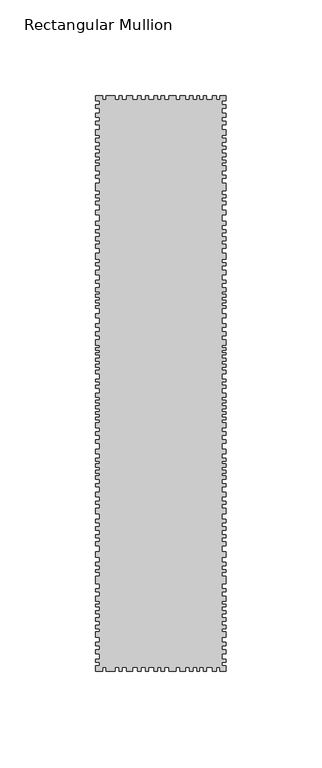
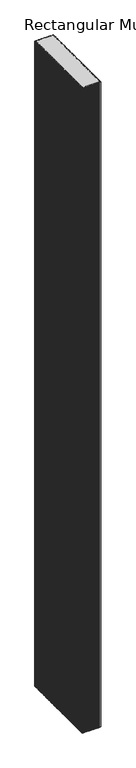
"""IFC4 building model written with IfcOpenShell, lengths in millimetres: member geometry, Rectangular Mullion : DucoSun Cubic Design louvre 300."""

from ifc_helpers import new_model, si_unit, frame, origin, place, context, project, spatial, polyline, outline, extrude, source, transform, mapped, element, save


def rectangular_mullion_1fec48aa(model_context):
    return source(origin(), model_context, "Body", "SweptSolid", [
        extrude(outline(polyline([(-68.0, 297.3782451), (-68.0, 300.0), (-64.4544414, 300.0), (-64.4544414, 298.0), (-62.627942, 298.0), (-62.627942, 300.0), (-57.9842994, 300.0), (-57.9842994, 298.0), (-55.8172663, 298.0), (-55.8172663, 300.0), (-54.3003431, 300.0), (-54.3003431, 298.0), (-51.9475642, 298.0), (-51.9475642, 300.0), (-48.8827601, 300.0), (-48.8827601, 298.0), (-46.0965746, 298.0), (-46.0965746, 300.0), (-44.3939057, 300.0), (-44.3939057, 298.0), (-42.0101692, 298.0), (-42.0101692, 300.0), (-40.5242036, 300.0), (-40.5242036, 298.0), (-37.4884678, 298.0), (-37.4884678, 300.0), (-35.7094289, 300.0), (-35.7094289, 298.0), (-34.0, 298.0), (-34.0, 300.0), (-32.1513512, 300.0), (-32.1513512, 298.0), (-29.7871022, 298.0), (-29.7871022, 300.0), (-26.0183489, 300.0), (-26.0183489, 298.0), (-23.9584092, 298.0), (-23.9584092, 300.0), (-21.2664425, 300.0), (-21.2664425, 298.0), (-18.9958271, 298.0), (-18.9958271, 300.0), (-17.1231547, 300.0), (-17.1231547, 298.0), (-15.0632149, 298.0), (-15.0632149, 300.0), (-13.7289358, 300.0), (-13.7289358, 298.0), (-11.6924045, 298.0), (-11.6924045, 300.0), (-10.1006329, 300.0), (-10.1006329, 298.0), (-7.0341317, 298.0), (-7.0341317, 300.0), (-5.0678256, 300.0), (-5.0678256, 298.0), (-3.1249279, 298.0), (-3.1249279, 300.0), (0.0, 300.0), (0.0, 297.3782451), (-2.0, 297.3782451), (-2.0, 295.4241521), (0.0, 295.4241521), (0.0, 293.6532553), (-2.0, 293.6532553), (-2.0, 290.9460223), (0.0, 290.9460223), (0.0, 288.9105087), (-2.0, 288.9105087), (-2.0, 286.7121541), (0.0, 286.7121541), (0.0, 285.0023227), (-2.0, 285.0023227), (-2.0, 282.3561551), (0.0, 282.3561551), (0.0, 279.3843053), (-2.0, 279.3843053), (-2.0, 277.8917893), (0.0, 277.8917893), (0.0, 275.8425117), (-2.0, 275.8425117), (-2.0, 273.8680636), (0.0, 273.8680636), (0.0, 272.1582322), (-2.0, 272.1582322), (-2.0, 270.0820083), (0.0, 270.0820083), (0.0, 268.3111116), (-2.0, 268.3111116), (-2.0, 266.4995045), (0.0, 266.4995045), (0.0, 265.0713495), (-2.0, 265.0713495), (-2.0, 263.4577392), (0.0, 263.4577392), (0.0, 261.0328231), (-2.0, 261.0328231), (-2.0, 258.5725067), (0.0, 258.5725067), (0.0, 257.0325964), (-2.0, 257.0325964), (-2.0, 254.5014796), (0.0, 254.5014796), (0.0, 250.4127524), (-2.0, 250.4127524), (-2.0, 248.4126391), (0.0, 248.4126391), (0.0, 246.8373286), (-2.0, 246.8373286), (-2.0, 244.9965163), (0.0, 244.9965163), (0.0, 243.3504053), (-2.0, 243.3504053), (-2.0, 240.3767855), (0.0, 240.3767855), (0.0, 237.9545244), (-2.0, 237.9545244), (-2.0, 234.5552168), (0.0, 234.5552168), (0.0, 232.5197032), (-2.0, 232.5197032), (-2.0, 230.239928), (0.0, 230.239928), (0.0, 228.6929377), (-2.0, 228.6929377), (-2.0, 226.4335177), (0.0, 226.4335177), (0.0, 224.5608452), (-2.0, 224.5608452), (-2.0, 222.6271073), (0.0, 222.6271073), (0.0, 220.5508835), (-2.0, 220.5508835), (-2.0, 218.0064916), (0.0, 218.0064916), (0.0, 214.9328661), (-2.0, 214.9328661), (-2.0, 212.9177077), (0.0, 212.9177077), (0.0, 211.4114277), (-2.0, 211.4114277), (-2.0, 208.9688114), (0.0, 208.9688114), (0.0, 206.7118273), (-2.0, 206.7118273), (-2.0, 203.8852623), (0.0, 203.8852623), (0.0, 202.4316003), (-2.0, 202.4316003), (-2.0, 199.9011516), (0.0, 199.9011516), (0.0, 197.8552569), (-2.0, 197.8552569), (-2.0, 196.6169522), (0.0, 196.6169522), (0.0, 195.0825312), (-2.0, 195.0825312), (-2.0, 193.4673512), (0.0, 193.4673512), (0.0, 192.0675286), (-2.0, 192.0675286), (-2.0, 190.5869469), (0.0, 190.5869469), (0.0, 189.1602046), (-2.0, 189.1602046), (-2.0, 186.3310055), (0.0, 186.3310055), (0.0, 184.2608252), (-2.0, 184.2608252), (-2.0, 181.1919832), (0.0, 181.1919832), (0.0, 179.2537672), (-2.0, 179.2537672), (-2.0, 176.9360418), (0.0, 176.9360418), (0.0, 175.0004598), (-2.0, 175.0004598), (-2.0, 172.9007258), (0.0, 172.9007258), (0.0, 170.1010805), (-2.0, 170.1010805), (-2.0, 168.8089365), (0.0, 168.8089365), (0.0, 167.3014351), (-2.0, 167.3014351), (-2.0, 166.0362108), (0.0, 166.0362108), (0.0, 165.0401831), (-2.0, 165.0401831), (-2.0, 163.2096458), (0.0, 163.2096458), (0.0, 161.6483051), (-2.0, 161.6483051), (-2.0, 160.1408038), (0.0, 160.1408038), (0.0, 158.6063828), (-2.0, 158.6063828), (-2.0, 157.0719618), (0.0, 157.0719618), (0.0, 155.0799064), (-2.0, 155.0799064), (-2.0, 152.3762692), (0.0, 152.3762692), (0.0, 150.8903036), (-2.0, 150.8903036), (-2.0, 149.1257194), (0.0, 149.1257194), (0.0, 147.6087962), (-2.0, 147.6087962), (-2.0, 144.8535683), (0.0, 144.8535683), (0.0, 142.7484504), (-2.0, 142.7484504), (-2.0, 141.4172729), (0.0, 141.4172729), (0.0, 139.9622649), (-2.0, 139.9622649), (-2.0, 138.3524688), (0.0, 138.3524688), (0.0, 136.8355456), (-2.0, 136.8355456), (-2.0, 135.1947919), (0.0, 135.1947919), (0.0, 133.9255296), (-2.0, 133.9255296), (-2.0, 132.5014792), (0.0, 132.5014792), (0.0, 131.1083865), (-2.0, 131.1083865), (-2.0, 129.6843361), (0.0, 129.6843361), (0.0, 127.0529387), (-2.0, 127.0529387), (-2.0, 124.9787784), (0.0, 124.9787784), (0.0, 123.0284485), (-2.0, 123.0284485), (-2.0, 120.7995001), (0.0, 120.7995001), (0.0, 118.8182126), (-2.0, 118.8182126), (-2.0, 115.6914933), (0.0, 115.6914933), (0.0, 113.4935025), (-2.0, 113.4935025), (-2.0, 110.954978), (0.0, 110.954978), (0.0, 109.4070971), (-2.0, 109.4070971), (-2.0, 108.1378348), (0.0, 108.1378348), (0.0, 106.4970812), (-2.0, 106.4970812), (-2.0, 104.8253698), (0.0, 104.8253698), (0.0, 103.3394042), (-2.0, 103.3394042), (-2.0, 102.0391843), (0.0, 102.0391843), (0.0, 100.0578969), (-2.0, 100.0578969), (-2.0, 97.6741604), (0.0, 97.6741604), (0.0, 96.0953219), (-2.0, 96.0953219), (-2.0, 93.3091364), (0.0, 93.3091364), (0.0, 91.0182728), (-2.0, 91.0182728), (-2.0, 88.572621), (0.0, 88.572621), (0.0, 87.1485707), (-2.0, 87.1485707), (-2.0, 85.0124951), (0.0, 85.0124951), (0.0, 82.1643944), (-2.0, 82.1643944), (-2.0, 79.3782089), (0.0, 79.3782089), (0.0, 77.427879), (-2.0, 77.427879), (-2.0, 75.4156339), (0.0, 75.4156339), (0.0, 73.6510498), (-2.0, 73.6510498), (-2.0, 71.1744404), (0.0, 71.1744404), (0.0, 69.6884748), (-2.0, 69.6884748), (-2.0, 67.5523993), (0.0, 67.5523993), (0.0, 65.4163237), (-2.0, 65.4163237), (-2.0, 62.1967316), (0.0, 62.1967316), (0.0, 59.5343765), (-2.0, 59.5343765), (-2.0, 56.7791486), (0.0, 56.7791486), (0.0, 55.0764797), (-2.0, 55.0764797), (-2.0, 52.9404041), (0.0, 52.9404041), (0.0, 51.6092266), (-2.0, 51.6092266), (-2.0, 49.5660239), (0.0, 49.5660239), (0.0, 45.512038), (-2.0, 45.512038), (-2.0, 43.0030092), (0.0, 43.0030092), (0.0, 41.3312979), (-2.0, 41.3312979), (-2.0, 39.0404342), (0.0, 39.0404342), (0.0, 36.5638249), (-2.0, 36.5638249), (-2.0, 35.015944), (0.0, 35.015944), (0.0, 33.5609361), (-2.0, 33.5609361), (-2.0, 31.5796486), (0.0, 31.5796486), (0.0, 30.0627254), (-2.0, 30.0627254), (-2.0, 27.8337769), (0.0, 27.8337769), (0.0, 26.1620656), (-2.0, 26.1620656), (-2.0, 24.0259901), (0.0, 24.0259901), (0.0, 22.0756602), (-2.0, 22.0756602), (-2.0, 20.6516099), (0.0, 20.6516099), (0.0, 17.7415939), (-2.0, 17.7415939), (-2.0, 15.2030693), (0.0, 15.2030693), (0.0, 13.1908242), (-2.0, 13.1908242), (-2.0, 11.2404944), (0.0, 11.2404944), (0.0, 9.1353764), (-2.0, 9.1353764), (-2.0, 6.2563181), (0.0, 6.2563181), (0.0, 4.6155644), (-2.0, 4.6155644), (-2.0, 2.8509802), (0.0, 2.8509802), (0.0, 0.0), (-3.1249279, 0.0), (-3.1249279, 2.0), (-5.0678256, 2.0), (-5.0678256, 0.0), (-7.0341317, 0.0), (-7.0341317, 2.0), (-10.1006329, 2.0), (-10.1006329, 0.0), (-11.6924045, 0.0), (-11.6924045, 2.0), (-13.7289358, 2.0), (-13.7289358, 0.0), (-15.0632149, 0.0), (-15.0632149, 2.0), (-17.1231547, 2.0), (-17.1231547, 0.0), (-18.9958271, 0.0), (-18.9958271, 2.0), (-21.2664425, 2.0), (-21.2664425, 0.0), (-23.9584092, 0.0), (-23.9584092, 2.0), (-26.0183489, 2.0), (-26.0183489, 0.0), (-29.7871022, 0.0), (-29.7871022, 2.0), (-32.1513512, 2.0), (-32.1513512, 0.0), (-34.0, 0.0), (-34.0, 2.0), (-35.7094289, 2.0), (-35.7094289, 0.0), (-37.4884678, 0.0), (-37.4884678, 2.0), (-40.5242036, 2.0), (-40.5242036, 0.0), (-42.0101692, 0.0), (-42.0101692, 2.0), (-44.3939057, 2.0), (-44.3939057, 0.0), (-46.0965746, 0.0), (-46.0965746, 2.0), (-48.8827601, 2.0), (-48.8827601, 0.0), (-51.9475642, 0.0), (-51.9475642, 2.0), (-54.3003431, 2.0), (-54.3003431, 0.0), (-55.8172663, 0.0), (-55.8172663, 2.0), (-57.9842994, 2.0), (-57.9842994, 0.0), (-62.627942, 0.0), (-62.627942, 2.0), (-64.4544414, 2.0), (-64.4544414, 0.0), (-68.0, 0.0), (-68.0, 2.8509802), (-66.0, 2.8509802), (-66.0, 4.6155644), (-68.0, 4.6155644), (-68.0, 6.2563181), (-66.0, 6.2563181), (-66.0, 9.1353764), (-68.0, 9.1353764), (-68.0, 11.2404944), (-66.0, 11.2404944), (-66.0, 13.1908242), (-68.0, 13.1908242), (-68.0, 15.2030693), (-66.0, 15.2030693), (-66.0, 17.7415939), (-68.0, 17.7415939), (-68.0, 20.6516099), (-66.0, 20.6516099), (-66.0, 22.0756602), (-68.0, 22.0756602), (-68.0, 24.0259901), (-66.0, 24.0259901), (-66.0, 26.1620656), (-68.0, 26.1620656), (-68.0, 27.8337769), (-66.0, 27.8337769), (-66.0, 30.0627254), (-68.0, 30.0627254), (-68.0, 31.5796486), (-66.0, 31.5796486), (-66.0, 33.5609361), (-68.0, 33.5609361), (-68.0, 35.015944), (-66.0, 35.015944), (-66.0, 36.5638249), (-68.0, 36.5638249), (-68.0, 39.0404342), (-66.0, 39.0404342), (-66.0, 41.3312979), (-68.0, 41.3312979), (-68.0, 43.0030092), (-66.0, 43.0030092), (-66.0, 45.512038), (-68.0, 45.512038), (-68.0, 49.5660239), (-66.0, 49.5660239), (-66.0, 51.6092266), (-68.0, 51.6092266), (-68.0, 52.9404041), (-66.0, 52.9404041), (-66.0, 55.0764797), (-68.0, 55.0764797), (-68.0, 56.7791486), (-66.0, 56.7791486), (-66.0, 59.5343765), (-68.0, 59.5343765), (-68.0, 62.1967316), (-66.0, 62.1967316), (-66.0, 65.4163237), (-68.0, 65.4163237), (-68.0, 67.5523993), (-66.0, 67.5523993), (-66.0, 69.6884748), (-68.0, 69.6884748), (-68.0, 71.1744404), (-66.0, 71.1744404), (-66.0, 73.6510498), (-68.0, 73.6510498), (-68.0, 75.4156339), (-66.0, 75.4156339), (-66.0, 77.427879), (-68.0, 77.427879), (-68.0, 79.3782089), (-66.0, 79.3782089), (-66.0, 82.1643944), (-68.0, 82.1643944), (-68.0, 85.0124951), (-66.0, 85.0124951), (-66.0, 87.1485707), (-68.0, 87.1485707), (-68.0, 88.572621), (-66.0, 88.572621), (-66.0, 91.0182728), (-68.0, 91.0182728), (-68.0, 93.3091364), (-66.0, 93.3091364), (-66.0, 96.0953219), (-68.0, 96.0953219), (-68.0, 97.6741604), (-66.0, 97.6741604), (-66.0, 100.0578969), (-68.0, 100.0578969), (-68.0, 102.0391843), (-66.0, 102.0391843), (-66.0, 103.3394042), (-68.0, 103.3394042), (-68.0, 104.8253698), (-66.0, 104.8253698), (-66.0, 106.4970812), (-68.0, 106.4970812), (-68.0, 108.1378348), (-66.0, 108.1378348), (-66.0, 109.4070971), (-68.0, 109.4070971), (-68.0, 110.954978), (-66.0, 110.954978), (-66.0, 113.4935025), (-68.0, 113.4935025), (-68.0, 115.6914933), (-66.0, 115.6914933), (-66.0, 118.8182126), (-68.0, 118.8182126), (-68.0, 120.7995001), (-66.0, 120.7995001), (-66.0, 123.0284485), (-68.0, 123.0284485), (-68.0, 124.9787784), (-66.0, 124.9787784), (-66.0, 127.0529387), (-68.0, 127.0529387), (-68.0, 129.6843361), (-66.0, 129.6843361), (-66.0, 131.1083865), (-68.0, 131.1083865), (-68.0, 132.5014792), (-66.0, 132.5014792), (-66.0, 133.9255296), (-68.0, 133.9255296), (-68.0, 135.1947919), (-66.0, 135.1947919), (-66.0, 136.8355456), (-68.0, 136.8355456), (-68.0, 138.3524688), (-66.0, 138.3524688), (-66.0, 139.9622649), (-68.0, 139.9622649), (-68.0, 141.4172729), (-66.0, 141.4172729), (-66.0, 142.7484504), (-68.0, 142.7484504), (-68.0, 144.8535683), (-66.0, 144.8535683), (-66.0, 147.6087962), (-68.0, 147.6087962), (-68.0, 149.1257194), (-66.0, 149.1257194), (-66.0, 150.8903036), (-68.0, 150.8903036), (-68.0, 152.3762692), (-66.0, 152.3762692), (-66.0, 155.0799064), (-68.0, 155.0799064), (-68.0, 157.0719618), (-66.0, 157.0719618), (-66.0, 158.6063828), (-68.0, 158.6063828), (-68.0, 160.1408038), (-66.0, 160.1408038), (-66.0, 161.6483051), (-68.0, 161.6483051), (-68.0, 163.2096458), (-66.0, 163.2096458), (-66.0, 165.0401831), (-68.0, 165.0401831), (-68.0, 166.0362108), (-66.0, 166.0362108), (-66.0, 167.3014351), (-68.0, 167.3014351), (-68.0, 168.8089365), (-66.0, 168.8089365), (-66.0, 170.1010805), (-68.0, 170.1010805), (-68.0, 172.9007258), (-66.0, 172.9007258), (-66.0, 175.0004598), (-68.0, 175.0004598), (-68.0, 176.9360418), (-66.0, 176.9360418), (-66.0, 179.2537672), (-68.0, 179.2537672), (-68.0, 181.1919832), (-66.0, 181.1919832), (-66.0, 184.2608252), (-68.0, 184.2608252), (-68.0, 186.3310055), (-66.0, 186.3310055), (-66.0, 189.1602046), (-68.0, 189.1602046), (-68.0, 190.5869469), (-66.0, 190.5869469), (-66.0, 192.0675286), (-68.0, 192.0675286), (-68.0, 193.4673512), (-66.0, 193.4673512), (-66.0, 195.0825312), (-68.0, 195.0825312), (-68.0, 196.6169522), (-66.0, 196.6169522), (-66.0, 197.8552569), (-68.0, 197.8552569), (-68.0, 199.9011516), (-66.0, 199.9011516), (-66.0, 202.4316003), (-68.0, 202.4316003), (-68.0, 203.8852623), (-66.0, 203.8852623), (-66.0, 206.7118273), (-68.0, 206.7118273), (-68.0, 208.9688114), (-66.0, 208.9688114), (-66.0, 211.4114277), (-68.0, 211.4114277), (-68.0, 212.9177077), (-66.0, 212.9177077), (-66.0, 214.9328661), (-68.0, 214.9328661), (-68.0, 218.0064916), (-66.0, 218.0064916), (-66.0, 220.5508835), (-68.0, 220.5508835), (-68.0, 222.6271073), (-66.0, 222.6271073), (-66.0, 224.5608452), (-68.0, 224.5608452), (-68.0, 226.4335177), (-66.0, 226.4335177), (-66.0, 228.6929377), (-68.0, 228.6929377), (-68.0, 230.239928), (-66.0, 230.239928), (-66.0, 232.5197032), (-68.0, 232.5197032), (-68.0, 234.5552168), (-66.0, 234.5552168), (-66.0, 237.9545244), (-68.0, 237.9545244), (-68.0, 240.3767855), (-66.0, 240.3767855), (-66.0, 243.3504053), (-68.0, 243.3504053), (-68.0, 244.9965163), (-66.0, 244.9965163), (-66.0, 246.8373286), (-68.0, 246.8373286), (-68.0, 248.4126391), (-66.0, 248.4126391), (-66.0, 250.4127524), (-68.0, 250.4127524), (-68.0, 254.5014796), (-66.0, 254.5014796), (-66.0, 257.0325964), (-68.0, 257.0325964), (-68.0, 258.5725067), (-66.0, 258.5725067), (-66.0, 261.0328231), (-68.0, 261.0328231), (-68.0, 263.4577392), (-66.0, 263.4577392), (-66.0, 265.0713495), (-68.0, 265.0713495), (-68.0, 266.4995045), (-66.0, 266.4995045), (-66.0, 268.3111116), (-68.0, 268.3111116), (-68.0, 270.0820083), (-66.0, 270.0820083), (-66.0, 272.1582322), (-68.0, 272.1582322), (-68.0, 273.8680636), (-66.0, 273.8680636), (-66.0, 275.8425117), (-68.0, 275.8425117), (-68.0, 277.8917893), (-66.0, 277.8917893), (-66.0, 279.3843053), (-68.0, 279.3843053), (-68.0, 282.3561551), (-66.0, 282.3561551), (-66.0, 285.0023227), (-68.0, 285.0023227), (-68.0, 286.7121541), (-66.0, 286.7121541), (-66.0, 288.9105087), (-68.0, 288.9105087), (-68.0, 290.9460223), (-66.0, 290.9460223), (-66.0, 293.6532553), (-68.0, 293.6532553), (-68.0, 295.4241521), (-66.0, 295.4241521), (-66.0, 297.3782451), (-68.0, 297.3782451)])), frame((0.0, 0.0, -2500.0), z_axis=(0.0, 0.0, 1.0), x_axis=(1.0, 0.0, 0.0)), (0.0, 0.0, 1.0), 2500.0),
    ])


if __name__ == "__main__":
    model = new_model("IFC4")
    model_context = context("Model", 3, world=origin())
    ifc_project = project(units=[si_unit("LENGTHUNIT", "METRE", prefix="MILLI")], contexts=[model_context])
    site = spatial("IfcSite", under=ifc_project)
    building = spatial("IfcBuilding", under=site)
    placement = place(None, origin())
    rectangular_mullion_shape = rectangular_mullion_1fec48aa(model_context)
    element("IfcMember", 1, ObjectType="Rectangular Mullion : DucoSun Cubic Design louvre 300", at=placement, inside=building, context=model_context, shape_type="MappedRepresentation", body=[
        mapped(rectangular_mullion_shape, transform((0.0, 0.0, 0.0), x_axis=(1.0, 0.0, 0.0), y_axis=(0.0, 1.0, 0.0), z_axis=(0.0, 0.0, 1.0))),
    ])
    save(model, "model.ifc")
